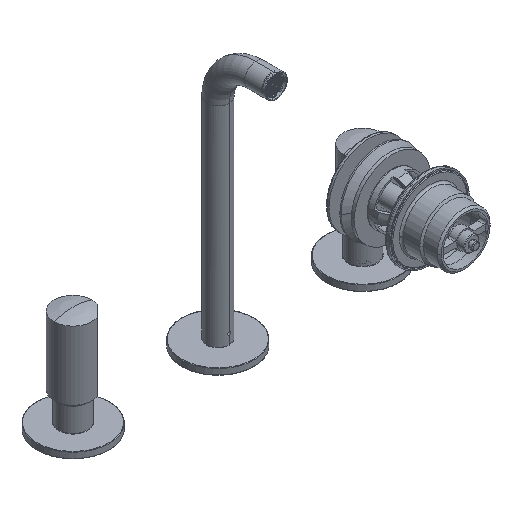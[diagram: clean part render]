
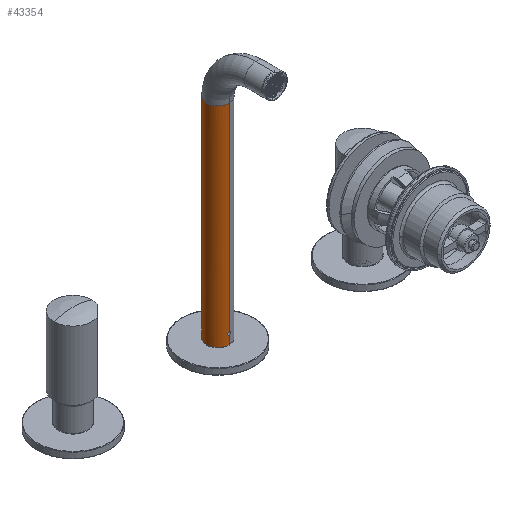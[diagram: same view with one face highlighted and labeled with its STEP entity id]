
A CAD part, isometric view. The second image highlights one B-rep face of the part: STEP entity #43354.
In plain terms, the highlighted cylindrical face has radius 9 mm (diameter 18 mm), a partial arc.
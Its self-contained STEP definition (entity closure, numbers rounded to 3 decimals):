
#5105=DIRECTION('',(0.,0.,1.));
#5106=VECTOR('',#5105,155.85);
#5107=CARTESIAN_POINT('',(0.,-9.,44.65));
#5108=LINE('',#5107,#5106);
#5109=CARTESIAN_POINT('',(0.,9.,35.7));
#5151=CARTESIAN_POINT('',(0.,-9.,
35.7));
#5153=DIRECTION('',(0.,0.,1.));
#5154=VECTOR('',#5153,6.65);
#5155=CARTESIAN_POINT('',(0.,-9.,
35.7));
#5156=LINE('',#5155,#5154);
#5177=CARTESIAN_POINT('',(-1.15,-8.926,
43.5));
#5178=CARTESIAN_POINT('',(-1.15,-8.926,
43.55));
#5179=CARTESIAN_POINT('',(-1.144,-8.927,
43.65));
#5180=CARTESIAN_POINT('',(-1.114,-8.931,
43.798));
#5181=CARTESIAN_POINT('',(-1.066,-8.937,
43.94));
#5182=CARTESIAN_POINT('',(-0.999,-8.944,
44.076));
#5183=CARTESIAN_POINT('',(-0.915,-8.953,
44.202));
#5184=CARTESIAN_POINT('',(-0.816,-8.963,
44.316));
#5185=CARTESIAN_POINT('',(-0.702,-8.973,
44.415));
#5186=CARTESIAN_POINT('',(-0.576,-8.982,
44.499));
#5187=CARTESIAN_POINT('',(-0.44,-8.99,
44.566));
#5188=CARTESIAN_POINT('',(-0.298,-8.995,
44.614));
#5189=CARTESIAN_POINT('',(-0.15,-8.999,
44.644));
#5190=CARTESIAN_POINT('',(-0.05,-9.,44.65));
#5191=CARTESIAN_POINT('',(0.,-9.,44.65));
#5193=CARTESIAN_POINT('',(0.,-9.,42.35));
#5194=CARTESIAN_POINT('',(-0.05,-9.,42.35));
#5195=CARTESIAN_POINT('',(-0.15,-8.999,
42.356));
#5196=CARTESIAN_POINT('',(-0.298,-8.995,
42.386));
#5197=CARTESIAN_POINT('',(-0.44,-8.99,
42.434));
#5198=CARTESIAN_POINT('',(-0.576,-8.982,
42.501));
#5199=CARTESIAN_POINT('',(-0.702,-8.973,
42.585));
#5200=CARTESIAN_POINT('',(-0.816,-8.963,
42.684));
#5201=CARTESIAN_POINT('',(-0.915,-8.953,
42.799));
#5202=CARTESIAN_POINT('',(-0.999,-8.944,
42.924));
#5203=CARTESIAN_POINT('',(-1.066,-8.937,
43.06));
#5204=CARTESIAN_POINT('',(-1.114,-8.931,
43.202));
#5205=CARTESIAN_POINT('',(-1.144,-8.927,
43.35));
#5206=CARTESIAN_POINT('',(-1.15,-8.926,
43.45));
#5207=CARTESIAN_POINT('',(-1.15,-8.926,
43.5));
#5209=CARTESIAN_POINT('',(0.,-9.,
35.7));
#5210=CARTESIAN_POINT('',(-0.235,-9.,
35.7));
#5211=CARTESIAN_POINT('',(-0.706,-8.982,
35.7));
#5212=CARTESIAN_POINT('',(-1.41,-8.898,
35.7));
#5213=CARTESIAN_POINT('',(-2.102,-8.761,
35.7));
#5214=CARTESIAN_POINT('',(-2.784,-8.568,
35.7));
#5215=CARTESIAN_POINT('',(-3.448,-8.323,
35.7));
#5216=CARTESIAN_POINT('',(-4.089,-8.028,
35.7));
#5217=CARTESIAN_POINT('',(-4.708,-7.681,
35.7));
#5218=CARTESIAN_POINT('',(-5.295,-7.289,
35.7));
#5219=CARTESIAN_POINT('',(-5.851,-6.851,
35.7));
#5220=CARTESIAN_POINT('',(-6.371,-6.37,
35.7));
#5221=CARTESIAN_POINT('',(-6.85,-5.852,
35.7));
#5222=CARTESIAN_POINT('',(-7.289,-5.296,
35.7));
#5223=CARTESIAN_POINT('',(-7.682,-4.707,
35.7));
#5224=CARTESIAN_POINT('',(-8.027,-4.091,
35.7));
#5225=CARTESIAN_POINT('',(-8.324,-3.447,
35.7));
#5226=CARTESIAN_POINT('',(-8.568,-2.784,
35.7));
#5227=CARTESIAN_POINT('',(-8.76,-2.104,
35.7));
#5228=CARTESIAN_POINT('',(-8.898,-1.409,
35.7));
#5229=CARTESIAN_POINT('',(-8.981,-0.708,
35.7));
#5230=CARTESIAN_POINT('',(-9.009,0.,
35.7));
#5231=CARTESIAN_POINT('',(-8.981,0.708,
35.7));
#5232=CARTESIAN_POINT('',(-8.898,1.409,35.7));
#5233=CARTESIAN_POINT('',(-8.76,2.104,35.7));
#5234=CARTESIAN_POINT('',(-8.568,2.784,35.7));
#5235=CARTESIAN_POINT('',(-8.324,3.447,35.7));
#5236=CARTESIAN_POINT('',(-8.027,4.091,35.7));
#5237=CARTESIAN_POINT('',(-7.682,4.707,35.7));
#5238=CARTESIAN_POINT('',(-7.289,5.296,35.7));
#5239=CARTESIAN_POINT('',(-6.85,5.852,35.7));
#5240=CARTESIAN_POINT('',(-6.371,6.37,35.7));
#5241=CARTESIAN_POINT('',(-5.851,6.851,35.7));
#5242=CARTESIAN_POINT('',(-5.295,7.289,35.7));
#5243=CARTESIAN_POINT('',(-4.708,7.681,35.7));
#5244=CARTESIAN_POINT('',(-4.089,8.028,35.7));
#5245=CARTESIAN_POINT('',(-3.448,8.323,35.7));
#5246=CARTESIAN_POINT('',(-2.784,8.568,35.7));
#5247=CARTESIAN_POINT('',(-2.102,8.761,35.7));
#5248=CARTESIAN_POINT('',(-1.41,8.898,35.7));
#5249=CARTESIAN_POINT('',(-0.706,8.982,
35.7));
#5250=CARTESIAN_POINT('',(-0.235,9.,
35.7));
#5251=CARTESIAN_POINT('',(0.,9.,35.7));
#5253=DIRECTION('',(0.,0.,1.));
#5254=VECTOR('',#5253,164.8);
#5255=CARTESIAN_POINT('',(0.,9.,35.7));
#5256=LINE('',#5255,#5254);
#25971=CARTESIAN_POINT('',(0.,0.,200.5));
#25972=DIRECTION('',(0.,0.,1.));
#25973=DIRECTION('',(0.,1.,0.));
#25974=AXIS2_PLACEMENT_3D('',#25971,#25972,#25973);
#32591=CARTESIAN_POINT('',(0.,9.,200.5));
#32592=CARTESIAN_POINT('',(0.,-9.,200.5));
#32593=VERTEX_POINT('',#32591);
#32594=VERTEX_POINT('',#32592);
#32599=VERTEX_POINT('',#5109);
#32600=VERTEX_POINT('',#5151);
#32629=VERTEX_POINT('',#5177);
#32630=VERTEX_POINT('',#5191);
#32631=VERTEX_POINT('',#5193);
#43337=CARTESIAN_POINT('',(0.,0.,35.5));
#43338=DIRECTION('',(0.,0.,1.));
#43339=DIRECTION('',(0.,1.,0.));
#43340=AXIS2_PLACEMENT_3D('',#43337,#43338,#43339);
#43341=CYLINDRICAL_SURFACE('',#43340,9.);
#43342=ORIENTED_EDGE('',*,*,#43325,.F.);
#43344=ORIENTED_EDGE('',*,*,#43343,.F.);
#43345=ORIENTED_EDGE('',*,*,#43313,.F.);
#43347=ORIENTED_EDGE('',*,*,#43346,.T.);
#43348=ORIENTED_EDGE('',*,*,#43309,.T.);
#43350=ORIENTED_EDGE('',*,*,#43349,.T.);
#43351=ORIENTED_EDGE('',*,*,#43306,.F.);
#43352=EDGE_LOOP('',(#43342,#43344,#43345,#43347,#43348,#43350,#43351));
#43353=FACE_OUTER_BOUND('',#43352,.F.);
#43354=ADVANCED_FACE('',(#43353),#43341,.T.);
#5192=B_SPLINE_CURVE_WITH_KNOTS('',3,(#5177,#5178,#5179,#5180,#5181,#5182,#5183,
#5184,#5185,#5186,#5187,#5188,#5189,#5190,#5191),.UNSPECIFIED.,.F.,.F.,(4,1,1,1,
1,1,1,1,1,1,1,1,4),(0.,0.083,0.167,0.25,
0.333,0.417,0.5,0.583,0.667,
0.75,0.833,0.917,1.),.UNSPECIFIED.);
#5208=B_SPLINE_CURVE_WITH_KNOTS('',3,(#5193,#5194,#5195,#5196,#5197,#5198,#5199,
#5200,#5201,#5202,#5203,#5204,#5205,#5206,#5207),.UNSPECIFIED.,.F.,.F.,(4,1,1,1,
1,1,1,1,1,1,1,1,4),(0.,0.083,0.167,0.25,
0.333,0.417,0.5,0.583,0.667,
0.75,0.833,0.917,1.),.UNSPECIFIED.);
#5252=B_SPLINE_CURVE_WITH_KNOTS('',3,(#5209,#5210,#5211,#5212,#5213,#5214,#5215,
#5216,#5217,#5218,#5219,#5220,#5221,#5222,#5223,#5224,#5225,#5226,#5227,#5228,
#5229,#5230,#5231,#5232,#5233,#5234,#5235,#5236,#5237,#5238,#5239,#5240,#5241,
#5242,#5243,#5244,#5245,#5246,#5247,#5248,#5249,#5250,#5251),.UNSPECIFIED.,.F.,
.F.,(4,1,1,1,1,1,1,1,1,1,1,1,1,1,1,1,1,1,1,1,1,1,1,1,1,1,1,1,1,1,1,1,1,1,1,1,1,
1,1,1,4),(0.,0.025,0.05,0.075,0.1,0.125,0.15,0.175,0.2,0.225,
0.25,0.275,0.3,0.325,0.35,0.375,0.4,0.425,0.45,0.475,0.5,
0.525,0.55,0.575,0.6,0.625,0.65,0.675,0.7,0.725,0.75,
0.775,0.8,0.825,0.85,0.875,0.9,0.925,0.95,0.975,1.),
.UNSPECIFIED.);
#25975=CIRCLE('',#25974,9.);
#43306=EDGE_CURVE('',#32630,#32594,#5108,.T.);
#43309=EDGE_CURVE('',#32599,#32593,#5256,.T.);
#43313=EDGE_CURVE('',#32600,#32631,#5156,.T.);
#43325=EDGE_CURVE('',#32629,#32630,#5192,.T.);
#43343=EDGE_CURVE('',#32631,#32629,#5208,.T.);
#43346=EDGE_CURVE('',#32600,#32599,#5252,.T.);
#43349=EDGE_CURVE('',#32593,#32594,#25975,.T.);
